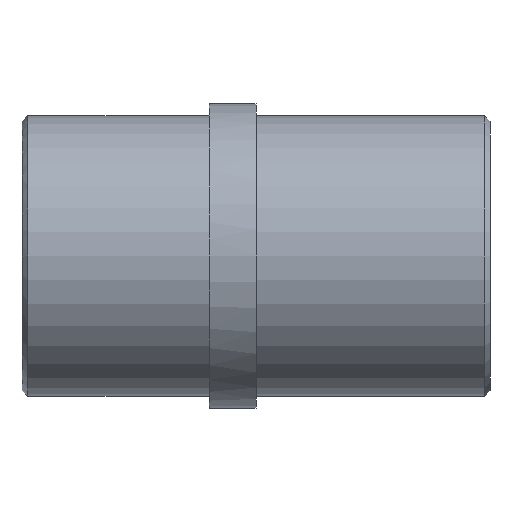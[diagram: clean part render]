
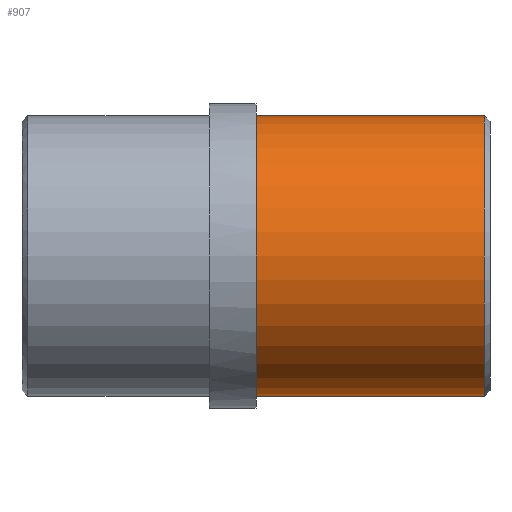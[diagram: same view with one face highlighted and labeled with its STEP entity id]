
A CAD part, front view. The second image highlights one B-rep face of the part: STEP entity #907.
In plain terms, the highlighted cylindrical face has radius 24 mm (diameter 48 mm), a partial arc.
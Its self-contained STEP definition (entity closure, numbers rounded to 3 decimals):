
#773=CARTESIAN_POINT('Vertex',(0.,0.,-24.)) ;
#778=CARTESIAN_POINT('Axis2P3D Location',(0.,0.,0.)) ;
#782=CARTESIAN_POINT('Vertex',(0.,-24.,0.)) ;
#785=CARTESIAN_POINT('Axis2P3D Location',(0.,0.,0.)) ;
#789=CARTESIAN_POINT('Vertex',(0.,0.,24.)) ;
#813=CARTESIAN_POINT('Vertex',(39.,0.,24.)) ;
#820=CARTESIAN_POINT('Vertex',(39.,0.,-24.)) ;
#849=CARTESIAN_POINT('Axis2P3D Location',(39.,0.,0.)) ;
#853=CARTESIAN_POINT('Vertex',(39.,-24.,0.)) ;
#856=CARTESIAN_POINT('Axis2P3D Location',(39.,0.,0.)) ;
#875=CARTESIAN_POINT('Line Origine',(40.,0.,24.)) ;
#880=CARTESIAN_POINT('Line Origine',(40.,0.,-24.)) ;
#894=CARTESIAN_POINT('Axis2P3D Location',(40.,0.,0.)) ;
#779=DIRECTION('Axis2P3D Direction',(1.,0.,-0.)) ;
#786=DIRECTION('Axis2P3D Direction',(1.,0.,-0.)) ;
#850=DIRECTION('Axis2P3D Direction',(-1.,0.,0.)) ;
#857=DIRECTION('Axis2P3D Direction',(-1.,0.,0.)) ;
#876=DIRECTION('Vector Direction',(-1.,0.,0.)) ;
#881=DIRECTION('Vector Direction',(-1.,0.,0.)) ;
#895=DIRECTION('Axis2P3D Direction',(-1.,-0.,-0.)) ;
#896=DIRECTION('Axis2P3D XDirection',(0.,0.,-1.)) ;
#780=AXIS2_PLACEMENT_3D('Circle Axis2P3D',#778,#779,$) ;
#787=AXIS2_PLACEMENT_3D('Circle Axis2P3D',#785,#786,$) ;
#851=AXIS2_PLACEMENT_3D('Circle Axis2P3D',#849,#850,$) ;
#858=AXIS2_PLACEMENT_3D('Circle Axis2P3D',#856,#857,$) ;
#897=AXIS2_PLACEMENT_3D('Cylinder Axis2P3D',#894,#895,#896) ;
#900=ORIENTED_EDGE('',*,*,#884,.T.) ;
#901=ORIENTED_EDGE('',*,*,#860,.F.) ;
#902=ORIENTED_EDGE('',*,*,#855,.F.) ;
#903=ORIENTED_EDGE('',*,*,#879,.T.) ;
#904=ORIENTED_EDGE('',*,*,#791,.T.) ;
#905=ORIENTED_EDGE('',*,*,#784,.T.) ;
#877=VECTOR('Line Direction',#876,1.) ;
#882=VECTOR('Line Direction',#881,1.) ;
#907=ADVANCED_FACE('355-40X80',(#906),#898,.T.) ;
#781=CIRCLE('generated circle',#780,24.) ;
#788=CIRCLE('generated circle',#787,24.) ;
#852=CIRCLE('generated circle',#851,24.) ;
#859=CIRCLE('generated circle',#858,24.) ;
#898=CYLINDRICAL_SURFACE('generated cylinder',#897,24.) ;
#784=EDGE_CURVE('',#783,#774,#781,.T.) ;
#791=EDGE_CURVE('',#790,#783,#788,.T.) ;
#855=EDGE_CURVE('',#814,#854,#852,.F.) ;
#860=EDGE_CURVE('',#854,#821,#859,.F.) ;
#879=EDGE_CURVE('',#814,#790,#878,.T.) ;
#884=EDGE_CURVE('',#774,#821,#883,.F.) ;
#899=EDGE_LOOP('',(#900,#901,#902,#903,#904,#905)) ;
#906=FACE_OUTER_BOUND('',#899,.T.) ;
#878=LINE('Line',#875,#877) ;
#883=LINE('Line',#880,#882) ;
#774=VERTEX_POINT('',#773) ;
#783=VERTEX_POINT('',#782) ;
#790=VERTEX_POINT('',#789) ;
#814=VERTEX_POINT('',#813) ;
#821=VERTEX_POINT('',#820) ;
#854=VERTEX_POINT('',#853) ;
